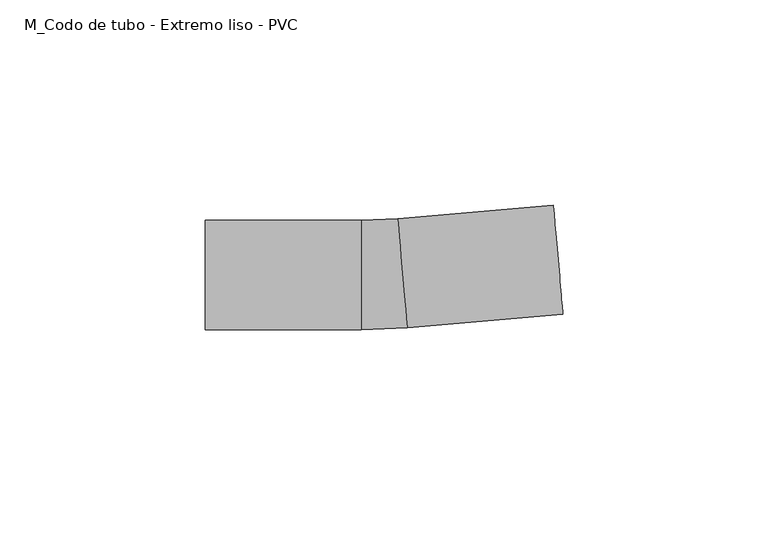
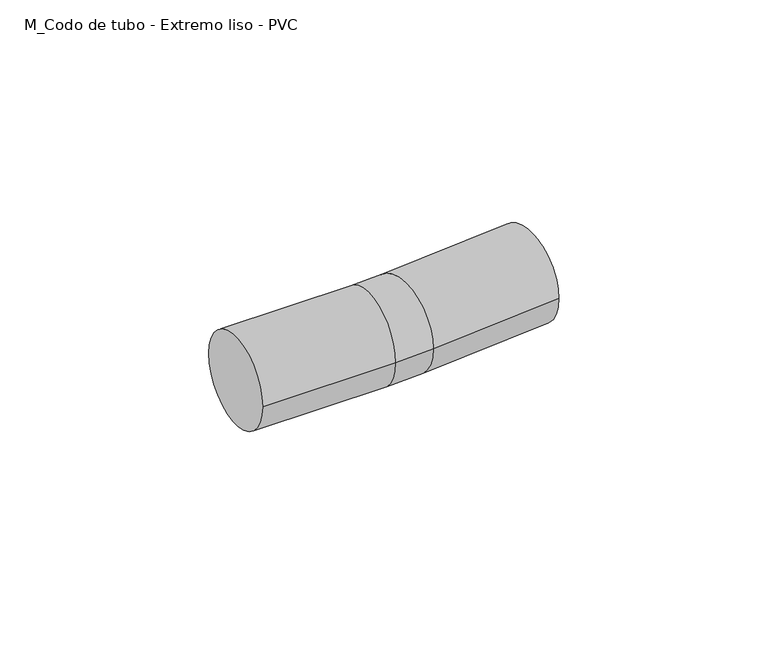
"""IFC4 building model written with IfcOpenShell, lengths in millimetres: cable carrier fitting geometry, M_Codo de tubo - Extremo liso - PVC : CODO ILUMINACION."""

import ifcopenshell
import ifcopenshell.guid

model = None  # the IFC model being written
_history = None  # IfcOwnerHistory: only IFC2X3 demands one
_inside = {}  # id of a spatial element -> (the spatial element, [elements in it])
_under = {}  # id of a project, library or spatial element -> (it, [spatial elements below it])
_declared = {}  # id of a project -> (the project, [libraries it declares])
_typed = {}  # id of a type object -> (the type object, [elements of that type])
_made_of = {}  # id of a material, layer set ... -> (it, [elements and type objects made of it])


def new_model(schema):
    """Start an empty IFC model of exactly this schema.

    Asked for "IFC4X3", IfcOpenShell would pick the latest addendum, in which some entities
    have other attributes; the version numbers below select the first issue.
    IFC2X3 requires an IfcOwnerHistory on every rooted entity: one is made here for all.
    """
    global model, _history
    if schema == "IFC4X3":
        model = ifcopenshell.file(schema_version=(4, 3, 0, 0))
    else:
        model = ifcopenshell.file(schema=schema)
    _inside.clear()
    _under.clear()
    _declared.clear()
    _typed.clear()
    _made_of.clear()
    _history = None
    if model.schema == "IFC2X3":
        org = make("IfcOrganization", Name="unknown")
        user = make(
            "IfcPersonAndOrganization",
            ThePerson=make("IfcPerson", FamilyName="unknown"),
            TheOrganization=org,
        )
        app = make(
            "IfcApplication",
            ApplicationDeveloper=org,
            Version="unknown",
            ApplicationFullName="unknown",
            ApplicationIdentifier="unknown",
        )
        _history = make(
            "IfcOwnerHistory",
            OwningUser=user,
            OwningApplication=app,
            ChangeAction="ADDED",
            CreationDate=0,
        )
    return model


def make(cls, **values):
    """One entity of the class cls with the attributes given. An attribute that is None is left unset."""
    return model.create_entity(
        cls, **{name: value for name, value in values.items() if value is not None}
    )


def rooted(cls, **values):
    """An entity with a GlobalId (a new one), such as an element, a storey or a relation."""
    return make(cls, GlobalId=ifcopenshell.guid.new(), OwnerHistory=_history, **values)


def si_unit(unit_type, name, prefix=None):
    """IfcSIUnit, for example si_unit("LENGTHUNIT", "METRE", prefix="MILLI")."""
    return make("IfcSIUnit", UnitType=unit_type, Prefix=prefix, Name=name)


def assignment(units):
    """IfcUnitAssignment: the units of a project."""
    return None if units is None else make("IfcUnitAssignment", Units=units)


def point(xyz):
    """IfcCartesianPoint."""
    return None if xyz is None else make("IfcCartesianPoint", Coordinates=xyz)


def direction(xyz):
    """IfcDirection."""
    return None if xyz is None else make("IfcDirection", DirectionRatios=xyz)


def frame(location, z_axis=None, x_axis=None):
    """IfcAxis2Placement3D, a coordinate frame: its origin and axes. An axis left out is left unset."""
    return make(
        "IfcAxis2Placement3D",
        Location=point(location),
        Axis=direction(z_axis),
        RefDirection=direction(x_axis),
    )


def origin():
    """The frame at (0, 0, 0) with its axes left unset."""
    return frame((0.0, 0.0, 0.0))


def place(relative_to, where):
    """IfcLocalPlacement: puts the frame where relative to a parent placement (None: the world)."""
    return make(
        "IfcLocalPlacement", PlacementRelTo=relative_to, RelativePlacement=where
    )


def context(
    kind, dimensions, precision=None, world=None, true_north=None, identifier=None
):
    """IfcGeometricRepresentationContext, for example the 3D "Model" context."""
    return make(
        "IfcGeometricRepresentationContext",
        ContextIdentifier=identifier,
        ContextType=kind,
        CoordinateSpaceDimension=dimensions,
        Precision=precision,
        WorldCoordinateSystem=world,
        TrueNorth=true_north,
    )


def project(units=None, contexts=None):
    """IfcProject with its units and contexts."""
    return rooted(
        "IfcProject",
        Name="project",
        RepresentationContexts=contexts,
        UnitsInContext=assignment(units),
    )


def spatial(cls, under=None, at=None, **own):
    """A site, building, storey or space (cls), placed at a placement, below another one or the project."""
    s = rooted(cls, ObjectPlacement=at, **own)
    if under is not None:
        _under.setdefault(under.id(), (under, []))[1].append(s)
    return s


def circle_curve(where, radius):
    """IfcCircle in the frame where."""
    return make("IfcCircle", Position=where, Radius=radius)


def ellipse_curve(where, semi_axis1, semi_axis2):
    """IfcEllipse in the frame where."""
    return make(
        "IfcEllipse", Position=where, SemiAxis1=semi_axis1, SemiAxis2=semi_axis2
    )


def trimmed(basis, trim1, trim2, sense, master):
    """IfcTrimmedCurve: the piece of a basis curve between two trims."""
    return make(
        "IfcTrimmedCurve",
        BasisCurve=basis,
        Trim1=trim1,
        Trim2=trim2,
        SenseAgreement=sense,
        MasterRepresentation=master,
    )


def shape(context_of_items, identifier, shape_type, items):
    """IfcShapeRepresentation: the items that make up one representation, for example the "Body"."""
    return make(
        "IfcShapeRepresentation",
        ContextOfItems=context_of_items,
        RepresentationIdentifier=identifier,
        RepresentationType=shape_type,
        Items=items,
    )


def source(mapping_origin, context_of_items, identifier, shape_type, items):
    """IfcRepresentationMap: a shape defined once, which mapped items show again and again."""
    return make(
        "IfcRepresentationMap",
        MappingOrigin=mapping_origin,
        MappedRepresentation=shape(context_of_items, identifier, shape_type, items),
    )


def transform(
    local_origin,
    x_axis=None,
    y_axis=None,
    z_axis=None,
    scale=None,
    scale2=None,
    scale3=None,
    uniform=True,
):
    """IfcCartesianTransformationOperator3D, or its non-uniform kind. x_axis, y_axis, z_axis: its Axis1, 2, 3."""
    if uniform:
        return make(
            "IfcCartesianTransformationOperator3D",
            Axis1=direction(x_axis),
            Axis2=direction(y_axis),
            LocalOrigin=point(local_origin),
            Scale=scale,
            Axis3=direction(z_axis),
        )
    return make(
        "IfcCartesianTransformationOperator3DnonUniform",
        Axis1=direction(x_axis),
        Axis2=direction(y_axis),
        LocalOrigin=point(local_origin),
        Scale=scale,
        Axis3=direction(z_axis),
        Scale2=scale2,
        Scale3=scale3,
    )


def mapped(mapping_source, mapping_target):
    """IfcMappedItem: shows the shape of a source again, moved by a transform."""
    return make(
        "IfcMappedItem", MappingSource=mapping_source, MappingTarget=mapping_target
    )


def made_of(thing, what):
    """Note that an element or type object is made of a material, layer set ...; save() writes the relation."""
    if what is not None:
        _made_of.setdefault(what.id(), (what, []))[1].append(thing)
    return thing


def element(
    cls,
    number,
    at=None,
    inside=None,
    cuts=None,
    type_object=None,
    material=None,
    context=None,
    identifier="Body",
    shape_type=None,
    held_by="IfcProductDefinitionShape",
    body=None,
    shapes=None,
    **own,
):
    """One element of the class cls, such as IfcWall. Its Tag is "e" and its number.

    at: its placement. inside: the storey or other place that contains it. cuts: it is an
    opening in that element (IfcRelVoidsElement). A single representation is given by context,
    identifier, shape_type and body (its items); several are given by shapes. held_by: the class
    of the entity that holds the representations. save() writes the other relations.
    """
    e = rooted(cls, Tag="e%d" % number, ObjectPlacement=at, **own)
    if body is not None:
        shapes = [shape(context, identifier, shape_type, body)]
    if shapes is not None:
        e.Representation = make(held_by, Representations=shapes)
    if inside is not None:
        _inside.setdefault(inside.id(), (inside, []))[1].append(e)
    if cuts is not None:
        rooted(
            "IfcRelVoidsElement", RelatingBuildingElement=cuts, RelatedOpeningElement=e
        )
    if type_object is not None:
        _typed.setdefault(type_object.id(), (type_object, []))[1].append(e)
    return made_of(e, material)


def aggregate(whole, parts):
    """IfcRelAggregates: a whole, such as a stair, and the parts it consists of."""
    return rooted("IfcRelAggregates", RelatingObject=whole, RelatedObjects=parts)


def save(model, path):
    """Write the relations noted so far, then the file.

    IfcRelAggregates (storeys below a building ...), IfcRelContainedInSpatialStructure (elements
    in a storey), IfcRelDefinesByType, IfcRelAssociatesMaterial and IfcRelDeclares: one each for
    every whole, place, type object, material and project.
    """
    for whole, parts in _under.values():
        aggregate(whole, parts)
    for where, things in _inside.values():
        rooted(
            "IfcRelContainedInSpatialStructure",
            RelatedElements=things,
            RelatingStructure=where,
        )
    for kind, things in _typed.values():
        rooted("IfcRelDefinesByType", RelatedObjects=things, RelatingType=kind)
    for what, things in _made_of.values():
        rooted("IfcRelAssociatesMaterial", RelatedObjects=things, RelatingMaterial=what)
    for by, libraries in _declared.values():
        rooted("IfcRelDeclares", RelatingContext=by, RelatedDefinitions=libraries)
    model.write(path)


def plane_surface(at):
    """IfcPlane: the flat surface through the origin of the frame at, square to its z axis."""
    return make("IfcPlane", Position=at)


def cylinder_surface(at, radius):
    """IfcCylindricalSurface: all points at the distance radius from the z axis of the frame at."""
    return make("IfcCylindricalSurface", Position=at, Radius=radius)


def revolved_surface(curve, axis_point, axis_direction):
    """IfcSurfaceOfRevolution: the curve turned about the line through axis_point along axis_direction."""
    return make(
        "IfcSurfaceOfRevolution",
        SweptCurve=make("IfcArbitraryOpenProfileDef", ProfileType="CURVE", Curve=curve),
        AxisPosition=make("IfcAxis1Placement", Location=point(axis_point), Axis=direction(axis_direction)),
    )


def advanced_brep(points, edges, surfaces, faces):
    """IfcAdvancedBrep: a solid bounded by faces that lie on surfaces and meet in shared edges.

    An edge is (start, end): straight between two places in points (the first is 0);
    or (start, end, curve); or (start, end, curve, False) where it runs against its curve.
    A face is (place in surfaces, loops), or (place, loops, False) where it looks against
    its surface's normal. A loop lists edges by number (the first is 1), with a minus sign
    where the edge is run from its end to its start. The first loop is the outer one.
    """
    corners = [point(p) for p in points]
    vertices = [make("IfcVertexPoint", VertexGeometry=c) for c in corners]
    made = []
    for start, end, *more in edges:
        made.append(
            make(
                "IfcEdgeCurve",
                EdgeStart=vertices[start],
                EdgeEnd=vertices[end],
                EdgeGeometry=more[0] if more else make("IfcPolyline", Points=[corners[start], corners[end]]),
                SameSense=more[1] if len(more) > 1 else True,
            )
        )
    hull = []
    for where, loops, *sense in faces:
        bounds = []
        for j, loop in enumerate(loops):
            ring = [make("IfcOrientedEdge", EdgeElement=made[abs(k) - 1], Orientation=k > 0) for k in loop]
            bounds.append(
                make(
                    "IfcFaceOuterBound" if j == 0 else "IfcFaceBound",
                    Bound=make("IfcEdgeLoop", EdgeList=ring),
                    Orientation=True,
                )
            )
        hull.append(make("IfcAdvancedFace", Bounds=bounds, FaceSurface=surfaces[where], SameSense=sense[0] if sense else True))
    return make("IfcAdvancedBrep", Outer=make("IfcClosedShell", CfsFaces=hull))


def m_codo_de_tubo_extremo_liso_pvc_2733f828(model_context):
    return source(origin(), model_context, "Body", "AdvancedBrep", [
        advanced_brep(
        [(-43.107372, -13.335, 0.0), (-43.107372, 13.335, 0.0), (-5.007372, -13.335, 0.0), (-5.007372, 13.335, 0.0), (3.8220395, 13.7218079, 0.0), (6.1543369, -12.8460164, 0.0), (44.1083716, -9.514163, 0.0), (41.7760743, 17.0536614, 0.0)],
        [
            (0, 1, circle_curve(frame((-43.107372, 0.0, 0.0), z_axis=(-1.0, 0.0, 0.0), x_axis=(0.0, 1.0, 0.0)), 13.335)),
            (1, 0, circle_curve(frame((-43.107372, 0.0, 0.0), z_axis=(-1.0, 0.0, 0.0), x_axis=(0.0, 1.0, 0.0)), 13.335)),
            (0, 2),
            (2, 3, circle_curve(frame((-5.007372, 0.0, 0.0), z_axis=(-1.0, 0.0, 0.0), x_axis=(0.0, 1.0, 0.0)), 13.335)),
            (3, 1),
            (3, 2, circle_curve(frame((-5.007372, 0.0, 0.0), z_axis=(-1.0, 0.0, 0.0), x_axis=(0.0, 1.0, 0.0)), 13.335)),
            (4, 3, circle_curve(frame((-5.007372, 114.3, 0.0), z_axis=(0.0, 0.0, -1.0), x_axis=(0.0, -1.0, 0.0)), 100.965)),
            (2, 5, circle_curve(frame((-5.007372, 114.3, 0.0), z_axis=(0.0, 0.0, 1.0), x_axis=(0.0, -1.0, 0.0)), 127.635)),
            (5, 4, circle_curve(frame((4.9881882, 0.4378958, 0.0), z_axis=(-0.9961688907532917, -0.08745022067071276, 0.0), x_axis=(-0.08745022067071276, 0.9961688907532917, 0.0)), 13.335)),
            (4, 5, circle_curve(frame((4.9881882, 0.4378958, 0.0), z_axis=(-0.9961688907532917, -0.08745022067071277, 0.0), x_axis=(-0.08745022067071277, 0.9961688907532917, 0.0)), 13.335)),
            (6, 7, circle_curve(frame((42.942223, 3.7697492, 0.0), z_axis=(0.9961688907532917, 0.08745022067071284, 0.0), x_axis=(-0.08745022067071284, 0.9961688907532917, 0.0)), 13.335)),
            (7, 6, circle_curve(frame((42.942223, 3.7697492, 0.0), z_axis=(0.9961688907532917, 0.08745022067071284, 0.0), x_axis=(-0.08745022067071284, 0.9961688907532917, 0.0)), 13.335)),
            (5, 6),
            (7, 4),
        ],
        [
            plane_surface(frame((-43.107372, 0.0, 0.0), z_axis=(-1.0, 0.0, 0.0), x_axis=(0.0, 0.0, 1.0))),
            cylinder_surface(frame((-43.107372, 0.0, 0.0), z_axis=(-1.0, 0.0, 0.0), x_axis=(0.0, 1.0, 0.0)), 13.335),
            revolved_surface(trimmed(ellipse_curve(frame((-5.007372, 0.0, 0.0), z_axis=(-1.0, 0.0, 0.0), x_axis=(0.0, 1.0, 0.0)), 13.335, 13.335), [point((-5.007372, -13.335, 0.0))], [point((-5.007372, 13.335, 0.0))], True, "CARTESIAN"), (-5.007372, 114.3, 0.0), (0.0, 0.0, 1.0)),
            revolved_surface(trimmed(ellipse_curve(frame((-5.007372, 0.0, 0.0), z_axis=(-1.0, 0.0, 0.0), x_axis=(0.0, 1.0, 0.0)), 13.335, 13.335), [point((-5.007372, 13.335, 0.0))], [point((-5.007372, -13.335, 0.0))], True, "CARTESIAN"), (-5.007372, 114.3, 0.0), (0.0, 0.0, 1.0)),
            plane_surface(frame((42.942223, 3.7697492, 0.0), z_axis=(0.9961688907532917, 0.08745022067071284, 0.0), x_axis=(0.0, 0.0, 1.0))),
            cylinder_surface(frame((4.9881882, 0.4378958, 0.0), z_axis=(-0.9961688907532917, -0.08745022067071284, 0.0), x_axis=(-0.08745022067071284, 0.9961688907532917, 0.0)), 13.335),
        ],
        [
            (0, [[1, 2]]),
            (1, [[-1, 3, 4, 5]]),
            (1, [[-2, -5, 6, -3]]),
            (2, [[7, -4, 8, 9]]),
            (3, [[-8, -6, -7, 10]]),
            (4, [[11, 12]]),
            (5, [[-9, 13, -12, 14]]),
            (5, [[-10, -14, -11, -13]]),
        ],
    ),
    ])


if __name__ == "__main__":
    model = new_model("IFC4")
    model_context = context("Model", 3, world=origin())
    ifc_project = project(units=[si_unit("LENGTHUNIT", "METRE", prefix="MILLI")], contexts=[model_context])
    site = spatial("IfcSite", under=ifc_project)
    building = spatial("IfcBuilding", under=site)
    placement = place(None, origin())
    m_codo_de_tubo_extremo_liso_pvc_shape = m_codo_de_tubo_extremo_liso_pvc_2733f828(model_context)
    element("IfcCableCarrierFitting", 1, ObjectType="M_Codo de tubo - Extremo liso - PVC : CODO ILUMINACION", at=placement, inside=building, context=model_context, shape_type="MappedRepresentation", body=[
        mapped(m_codo_de_tubo_extremo_liso_pvc_shape, transform((0.0, 0.0, 0.0), x_axis=(1.0, 0.0, 0.0), y_axis=(0.0, 1.0, 0.0), z_axis=(0.0, 0.0, 1.0))),
    ])
    save(model, "model.ifc")
